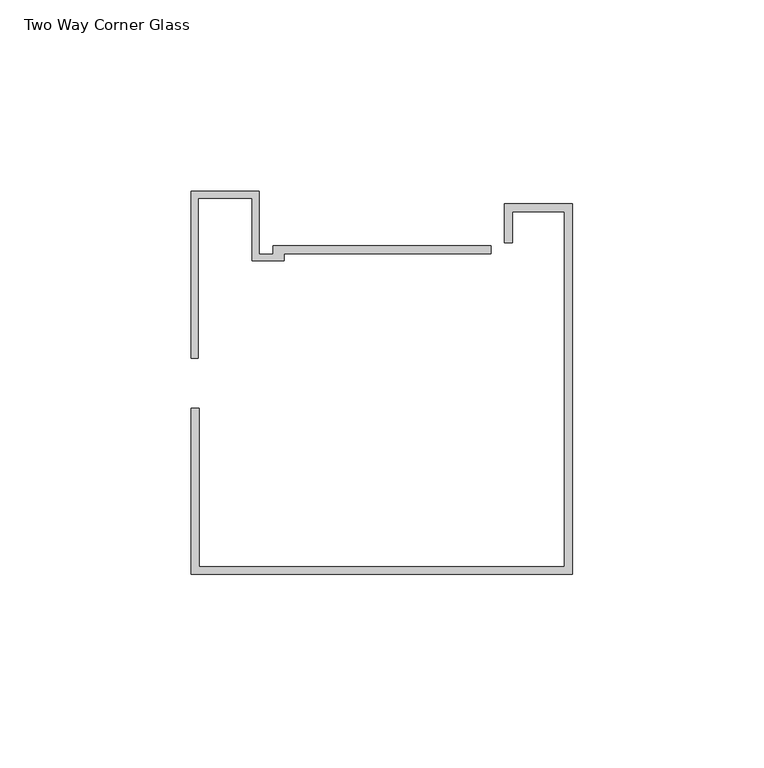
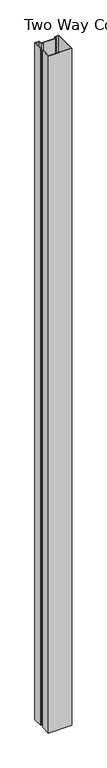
"""IFC4 building model written with IfcOpenShell, lengths in millimetres: proxy geometry, Connection-Corner-Teknion-OptosLP-Two_Way_FZCA2 : Two Way Corner Glass."""

from ifc_helpers import new_model, si_unit, origin, origin_with_axes, place, context, project, spatial, polyline, outline, extrude, source, transform, mapped, element, save


def two_way_corner_glass_c5241fdb(model_context):
    return source(origin(), model_context, "Body", "SweptSolid", [
        extrude(outline(polyline([(49.7708467, 46.7469071), (49.7708467, -50.00625), (-49.7708467, -50.00625), (-49.7708467, -6.573703), (-47.7481554, -6.573703), (-47.7481554, -47.97425), (47.7481554, -47.97425), (47.7481554, 44.7242158), (34.0949894, 44.7242158), (34.0949894, 36.6334508), (32.0722982, 36.6334508), (32.0722982, 46.7469071), (49.7708467, 46.7469071)])), origin_with_axes(), (0.0, 0.0, 1.0), 3048.0),
        extrude(outline(polyline([(-49.7709462, 6.4981383), (-49.7709462, 50.00625), (-32.0723977, 50.00625), (-32.0723977, 33.678052), (-28.4440958, 33.678052), (-28.4440958, 35.7972989), (28.4440958, 35.7972989), (28.4440958, 33.7746077), (-25.4986512, 33.7746077), (-25.4986512, 31.9081972), (-33.8422526, 31.9081972), (-33.8422526, 48.2363952), (-48.0010914, 48.2363952), (-48.0010914, 6.4981383), (-49.7709462, 6.4981383)])), origin_with_axes(), (0.0, 0.0, 1.0), 3048.0),
    ])


if __name__ == "__main__":
    model = new_model("IFC4")
    model_context = context("Model", 3, world=origin())
    ifc_project = project(units=[si_unit("LENGTHUNIT", "METRE", prefix="MILLI")], contexts=[model_context])
    site = spatial("IfcSite", under=ifc_project)
    building = spatial("IfcBuilding", under=site)
    placement = place(None, origin())
    two_way_corner_glass_shape = two_way_corner_glass_c5241fdb(model_context)
    element("IfcBuildingElementProxy", 1, Name="Connection-Corner-Teknion-OptosLP-Two_Way_FZCA2 : Two Way Corner Glass", ObjectType="Connection-Corner-Teknion-OptosLP-Two_Way_FZCA2 : Two Way Corner Glass", at=placement, inside=building, context=model_context, shape_type="MappedRepresentation", body=[
        mapped(two_way_corner_glass_shape, transform((0.0, 0.0, 0.0), x_axis=(1.0, 0.0, 0.0), y_axis=(0.0, 1.0, 0.0), z_axis=(0.0, 0.0, 1.0))),
    ])
    save(model, "model.ifc")
